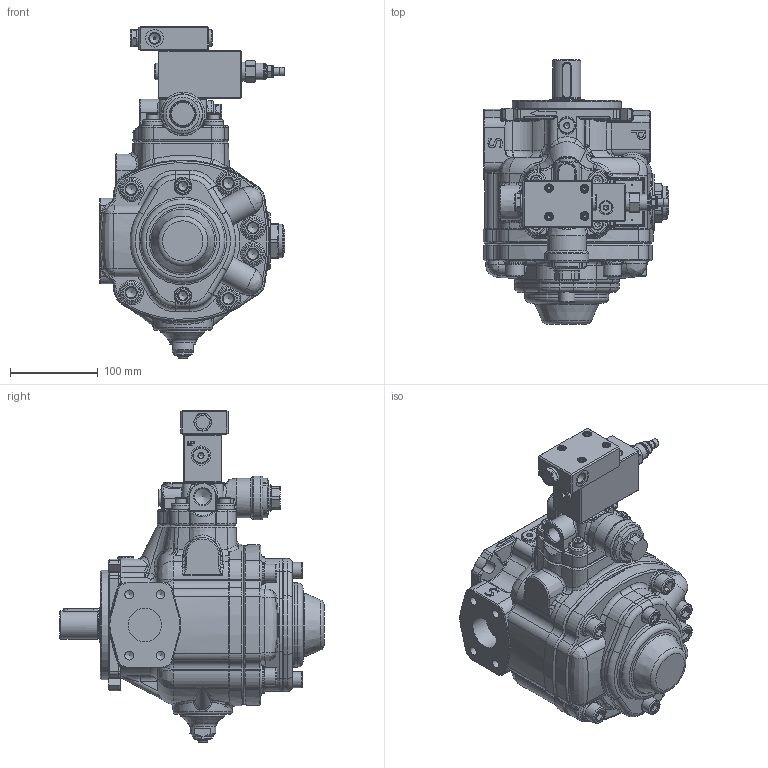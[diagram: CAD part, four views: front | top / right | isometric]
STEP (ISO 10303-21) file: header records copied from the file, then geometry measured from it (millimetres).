
FILE_DESCRIPTION(/* description */ (''),/* implementation_level */ '2;1');
FILE_NAME(/* name */ 'W:\Tecnico\Archivio\Berarma\Dimensioni Pompe\3D Export\Montaggio 3D semplificato\PLP-PHP 2\PHP 2 - A PCLS001.stp',/* time_stamp */ '2018-10-09T16:38:18+02:00',/* author */ ('marcop'),/* organization */ (''),/* preprocessor_version */ 'ST-DEVELOPER v17',/* originating_system */ 'Autodesk Inventor 2018',/* authorisation */ '');
FILE_SCHEMA (('AUTOMOTIVE_DESIGN { 1 0 10303 214 3 1 1 }'));
Products named in the file (1): PLP - PHP 2_Shrinkwrap_1
Bounding box: 212.33 x 301.5 x 379.1 mm (x, y, z)
Volume: 5217483.7 mm3; surface area: 458673.8 mm2
Topology: 1 solids, 1 shells, 2461 faces, 6366 edges, 3969 vertices
Faces by surface type: plane 960, cylinder 549, bspline 431, cone 256, torus 231, sphere 34
Full cylindrical faces by diameter (mm): 1.7 x4, 2.5 x3, 3 x1, 4 x4, 5 x7, 6 x3, 6.5 x1, 7.2 x13, 7.671 x2, 8 x2, 8.376 x4, 8.5 x4, 9 x4, 9.347 x2, 9.5 x1, 10 x1, 10.106 x4, 11.445 x4, 12 x3, 13 x4, 13.487 x1, 13.5 x1, 13.767 x2, 14 x3, 14.63 x1, 15.5 x2, 16 x2, 17.399 x1, 17.5 x1, 17.78 x1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
Entity records: 93034 total; most frequent: CARTESIAN_POINT 33090, ORIENTED_EDGE 12598, DIRECTION 11385, EDGE_CURVE 6299, AXIS2_PLACEMENT_3D 4429, VERTEX_POINT 3969, EDGE_LOOP 2664, LINE 2527
